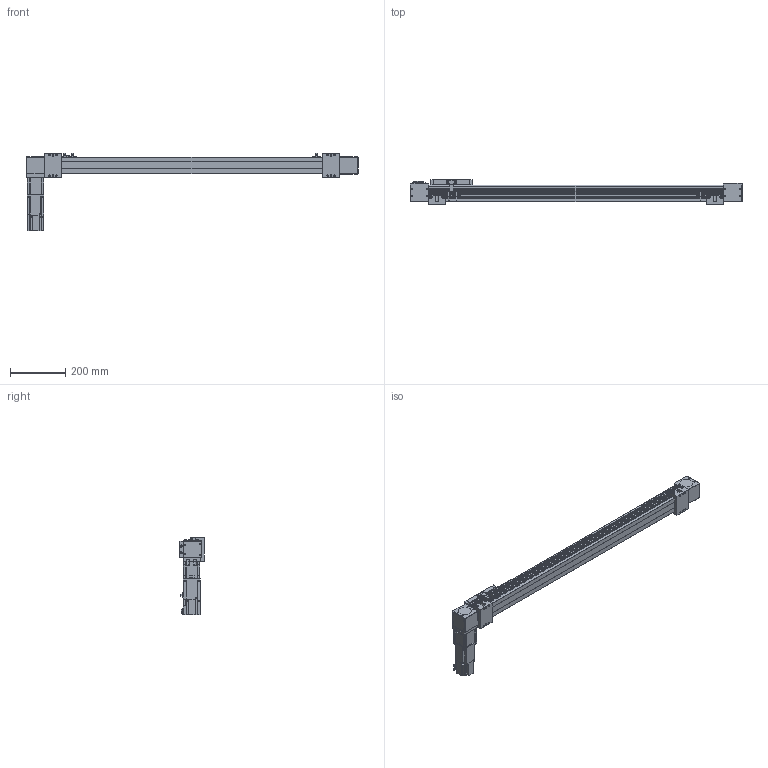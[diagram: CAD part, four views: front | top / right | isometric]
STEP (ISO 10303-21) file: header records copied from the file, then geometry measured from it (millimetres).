
FILE_DESCRIPTION(/* description */ ('STEP AP203'),/* implementation_level */ '2;1');
FILE_NAME(/* name */ 'SK60-P13-S900-BR-T40-C1-N(0)',/* time_stamp */ '2023-04-06T03:59:33+02:00',/* author */ ('License CC BY-ND 4.0'),/* organization */ ('CADENAS'),/* preprocessor_version */ 'ST-DEVELOPER v19.3',/* originating_system */ 'PARTsolutions',/* authorisation */ ' ');
FILE_SCHEMA (('CONFIG_CONTROL_DESIGN'));
Length unit declared in the file: millimetre
Products named in the file (11): SK60-P13-S900-BR-T40-C1-N(0); PSC140-sensor; SK60-S450_seat; SK60-S450-BL-C1_slider; SK60_body3; SK60_body6; SK60-BL_body2; T40-p1; SK60_body5; SK60_body4; SK60-S900-BR-C1_body
Assembly tree (17 placements, depth 2):
  SK60-P13-S900-BR-T40-C1-N(0)
    PSC140-sensor  x3
    SK60-S450_seat  x2
    SK60-S450-BL-C1_slider
    SK60_body3  x3
    SK60_body6  x2
    SK60-BL_body2  x2
    T40-p1
    SK60_body5
    SK60_body4
    SK60-S900-BR-C1_body
Bounding box: 1200 x 90 x 279.1 mm (x, y, z)
Volume: 4658938.8 mm3; surface area: 632925.3 mm2
Topology: 17 solids, 21 shells, 834 faces, 2109 edges, 1394 vertices
Faces by surface type: plane 544, cylinder 266, cone 22, torus 2
Full cylindrical faces by diameter (mm): 2.8 x3, 3.3 x4, 4.2 x8, 4.5 x26, 4.6 x3, 4.917 x16, 5 x2, 5.478 x4, 5.5 x19, 6.5 x4, 8 x4, 8.5 x4, 9.988 x4, 10 x8, 13.556 x1, 14 x1, 14.586 x1, 19.692 x1, 38.432 x2, 43 x1, 44 x3, 47 x2, 50 x2
Entity records: 19371 total; most frequent: DIRECTION 3292, CARTESIAN_POINT 3289, ORIENTED_EDGE 3050, EDGE_CURVE 1525, AXIS2_PLACEMENT_3D 1100, LINE 1092, VECTOR 1092, VERTEX_POINT 1077
